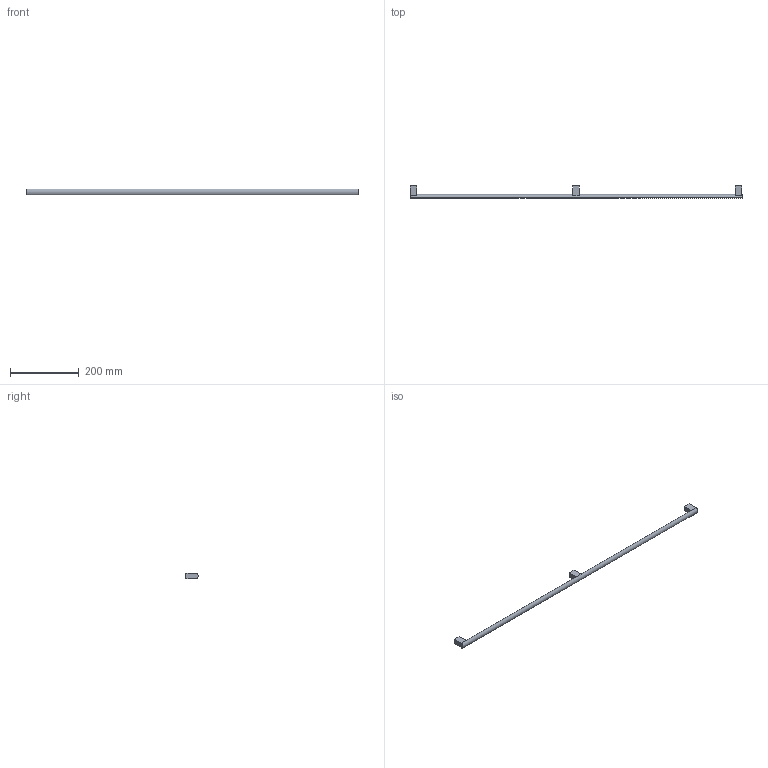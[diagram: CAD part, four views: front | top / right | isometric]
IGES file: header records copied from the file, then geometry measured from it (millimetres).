
Start section: Data from Parasolid IGES Translator 20.0.26, Copyright(c) 2006 Siemens P LM Software. All Rights Reserved.
Global section: file name: 115216.igs; native system: By Siemens PLM Incorporated; preprocessor: XPlus GENERIC/IGES 20.0.26; author: Noname; organization: Noname; date: 20230220.164434; units: millimetre
Bounding box: 967 x 35.96 x 16 mm (x, y, z)
Surface area: 47573.3 mm2 (no closed solid volume)
Topology: 0 solids, 0 shells, 31 faces, 144 edges, 140 vertices
Faces by surface type: extrusion 25, revolution 6
